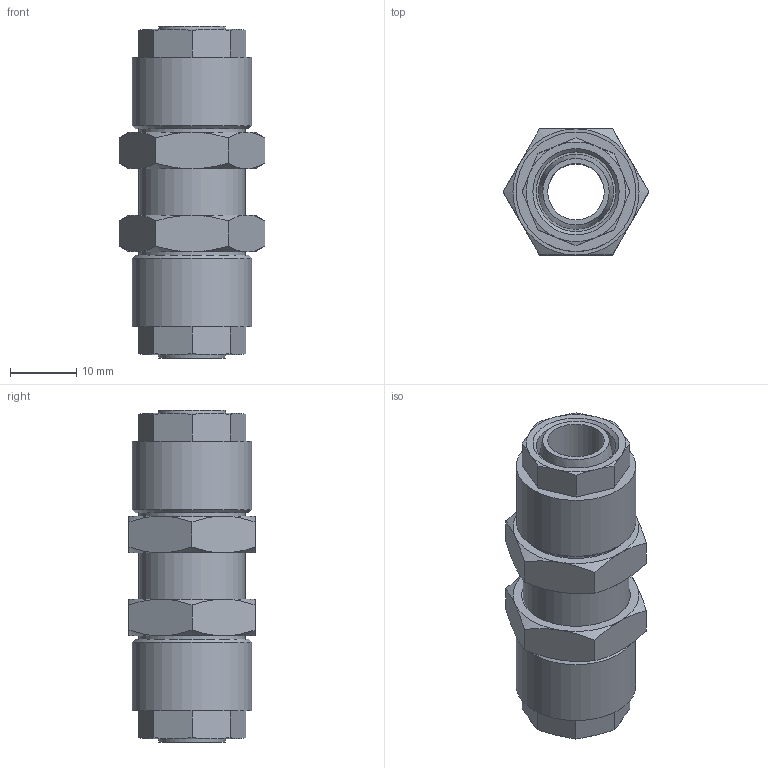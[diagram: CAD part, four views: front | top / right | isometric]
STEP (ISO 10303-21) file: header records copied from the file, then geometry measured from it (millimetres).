
FILE_DESCRIPTION(/* description */ (''),/* implementation_level */ '2;1');
FILE_NAME(/* name */ '10510_304_1210_17.07.17',/* time_stamp */ '2017-07-17T14:39:23+02:00',/* author */ (''),/* organization */ (''),/* preprocessor_version */ 'ST-DEVELOPER v16.5',/* originating_system */ 'HiCAD 2016 2102.2 Build 618',/* authorisation */ '');
FILE_SCHEMA (('AUTOMOTIVE_DESIGN { 1 0 10303 214 1 1 1 1 }'));
Length unit declared in the file: millimetre
Products named in the file (6): Root; R10510; 17008; Kontermutter
Assembly tree (5 placements, depth 2):
  Root
    R10510
    17008
    17008
    Kontermutter
    Kontermutter
Bounding box: 21.94 x 19 x 50 mm (x, y, z)
Volume: 9371.4 mm3; surface area: 8864.8 mm2
Topology: 5 solids, 5 shells, 114 faces, 250 edges, 154 vertices
Faces by surface type: cone 56, plane 44, cylinder 12, torus 2
Full cylindrical faces by diameter (mm): 8.5 x1, 10.5 x2, 12 x2, 14.73 x4, 16 x1, 18 x2
Entity records: 5100 total; most frequent: DIRECTION 616, CARTESIAN_POINT 470, PRESENTATION_STYLE_ASSIGNMENT 417, COLOUR_RGB 413, DRAUGHTING_PRE_DEFINED_CURVE_FONT 412, CURVE_STYLE 412, OVER_RIDING_STYLED_ITEM 412, ORIENTED_EDGE 412
